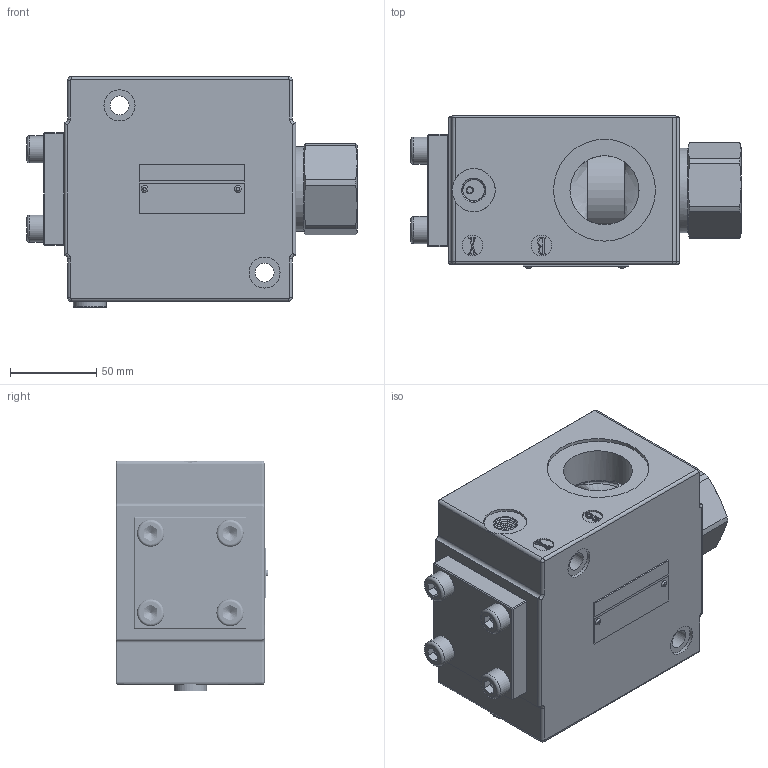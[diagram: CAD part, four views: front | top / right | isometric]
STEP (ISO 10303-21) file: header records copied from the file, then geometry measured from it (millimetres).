
FILE_DESCRIPTION(/* description */ (''),/* implementation_level */ '2;1');
FILE_NAME(/* name */ 'SV25G-1(2)-4XJ液控单向阀（管式）.prt.stp',/* time_stamp */ '2022-03-30T19:19:57+08:00',/* author */ (''),/* organization */ (''),/* preprocessor_version */ 'ST-DEVELOPER v16.7',/* originating_system */ 'SIEMENS PLM Software NX 12.0',/* authorisation */ '');
FILE_SCHEMA (('AUTOMOTIVE_DESIGN { 1 0 10303 214 3 1 1 1 }'));
Products named in the file (1): SV25G-1(2)-4XJ液控单向阀（管式）
Bounding box: 191.24 x 88 x 133.5 mm (x, y, z)
Volume: 1498345.4 mm3; surface area: 158844.6 mm2
Topology: 12 solids, 12 shells, 724 faces, 1879 edges, 1208 vertices
Faces by surface type: plane 438, cylinder 165, cone 51, bspline 50, torus 18, extrusion 2
Full cylindrical faces by diameter (mm): 1.8 x6, 3.4 x8, 6 x1, 8.5 x44, 10.8 x4, 11 x2, 12 x4, 12.3 x2, 12.5 x8, 15.73 x4, 16 x2, 17 x1, 18 x2, 19 x1, 25 x2, 40 x2, 44.8 x2, 46 x1, 48.4 x1, 49 x2, 59 x2
Entity records: 61560 total; most frequent: CARTESIAN_POINT 44326, ORIENTED_EDGE 3132, DIRECTION 2788, EDGE_CURVE 1566, VERTEX_POINT 1061, VECTOR 1012, LINE 1010, AXIS2_PLACEMENT_3D 888
